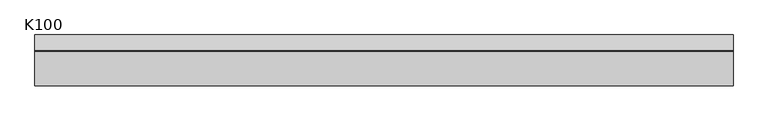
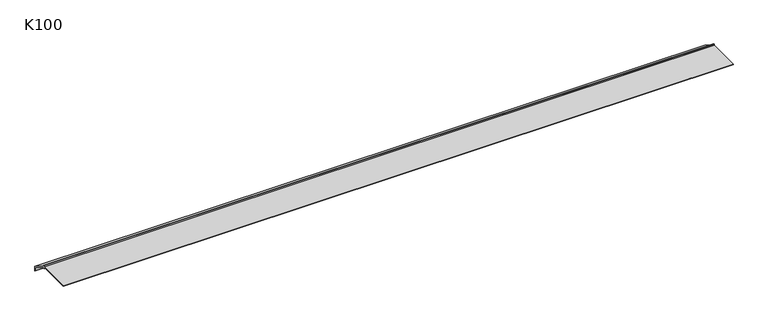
"""IFC4 building model written with IfcOpenShell, lengths in millimetres: proxy geometry, K100 Profil okapowy prosty : K100."""

import ifcopenshell
import ifcopenshell.guid

model = None  # the IFC model being written
_history = None  # IfcOwnerHistory: only IFC2X3 demands one
_inside = {}  # id of a spatial element -> (the spatial element, [elements in it])
_under = {}  # id of a project, library or spatial element -> (it, [spatial elements below it])
_declared = {}  # id of a project -> (the project, [libraries it declares])
_typed = {}  # id of a type object -> (the type object, [elements of that type])
_made_of = {}  # id of a material, layer set ... -> (it, [elements and type objects made of it])


def new_model(schema):
    """Start an empty IFC model of exactly this schema.

    Asked for "IFC4X3", IfcOpenShell would pick the latest addendum, in which some entities
    have other attributes; the version numbers below select the first issue.
    IFC2X3 requires an IfcOwnerHistory on every rooted entity: one is made here for all.
    """
    global model, _history
    if schema == "IFC4X3":
        model = ifcopenshell.file(schema_version=(4, 3, 0, 0))
    else:
        model = ifcopenshell.file(schema=schema)
    _inside.clear()
    _under.clear()
    _declared.clear()
    _typed.clear()
    _made_of.clear()
    _history = None
    if model.schema == "IFC2X3":
        org = make("IfcOrganization", Name="unknown")
        user = make(
            "IfcPersonAndOrganization",
            ThePerson=make("IfcPerson", FamilyName="unknown"),
            TheOrganization=org,
        )
        app = make(
            "IfcApplication",
            ApplicationDeveloper=org,
            Version="unknown",
            ApplicationFullName="unknown",
            ApplicationIdentifier="unknown",
        )
        _history = make(
            "IfcOwnerHistory",
            OwningUser=user,
            OwningApplication=app,
            ChangeAction="ADDED",
            CreationDate=0,
        )
    return model


def make(cls, **values):
    """One entity of the class cls with the attributes given. An attribute that is None is left unset."""
    return model.create_entity(
        cls, **{name: value for name, value in values.items() if value is not None}
    )


def rooted(cls, **values):
    """An entity with a GlobalId (a new one), such as an element, a storey or a relation."""
    return make(cls, GlobalId=ifcopenshell.guid.new(), OwnerHistory=_history, **values)


def si_unit(unit_type, name, prefix=None):
    """IfcSIUnit, for example si_unit("LENGTHUNIT", "METRE", prefix="MILLI")."""
    return make("IfcSIUnit", UnitType=unit_type, Prefix=prefix, Name=name)


def assignment(units):
    """IfcUnitAssignment: the units of a project."""
    return None if units is None else make("IfcUnitAssignment", Units=units)


def point(xyz):
    """IfcCartesianPoint."""
    return None if xyz is None else make("IfcCartesianPoint", Coordinates=xyz)


def direction(xyz):
    """IfcDirection."""
    return None if xyz is None else make("IfcDirection", DirectionRatios=xyz)


def frame(location, z_axis=None, x_axis=None):
    """IfcAxis2Placement3D, a coordinate frame: its origin and axes. An axis left out is left unset."""
    return make(
        "IfcAxis2Placement3D",
        Location=point(location),
        Axis=direction(z_axis),
        RefDirection=direction(x_axis),
    )


def origin():
    """The frame at (0, 0, 0) with its axes left unset."""
    return frame((0.0, 0.0, 0.0))


def place(relative_to, where):
    """IfcLocalPlacement: puts the frame where relative to a parent placement (None: the world)."""
    return make(
        "IfcLocalPlacement", PlacementRelTo=relative_to, RelativePlacement=where
    )


def context(
    kind, dimensions, precision=None, world=None, true_north=None, identifier=None
):
    """IfcGeometricRepresentationContext, for example the 3D "Model" context."""
    return make(
        "IfcGeometricRepresentationContext",
        ContextIdentifier=identifier,
        ContextType=kind,
        CoordinateSpaceDimension=dimensions,
        Precision=precision,
        WorldCoordinateSystem=world,
        TrueNorth=true_north,
    )


def project(units=None, contexts=None):
    """IfcProject with its units and contexts."""
    return rooted(
        "IfcProject",
        Name="project",
        RepresentationContexts=contexts,
        UnitsInContext=assignment(units),
    )


def spatial(cls, under=None, at=None, **own):
    """A site, building, storey or space (cls), placed at a placement, below another one or the project."""
    s = rooted(cls, ObjectPlacement=at, **own)
    if under is not None:
        _under.setdefault(under.id(), (under, []))[1].append(s)
    return s


def polyline(points):
    """IfcPolyline through the points."""
    return make("IfcPolyline", Points=[point(p) for p in points])


def outline(outer, holes=None, kind="AREA"):
    """IfcArbitraryClosedProfileDef: a profile drawn as a closed curve; with holes, ...WithVoids."""
    if holes is None:
        return make("IfcArbitraryClosedProfileDef", ProfileType=kind, OuterCurve=outer)
    return make(
        "IfcArbitraryProfileDefWithVoids",
        ProfileType=kind,
        OuterCurve=outer,
        InnerCurves=holes,
    )


def extrude(swept, where, along, depth):
    """IfcExtrudedAreaSolid: the profile swept, set in the frame where, extruded along a direction by depth."""
    return make(
        "IfcExtrudedAreaSolid",
        SweptArea=swept,
        Position=where,
        ExtrudedDirection=direction(along),
        Depth=depth,
    )


def shape(context_of_items, identifier, shape_type, items):
    """IfcShapeRepresentation: the items that make up one representation, for example the "Body"."""
    return make(
        "IfcShapeRepresentation",
        ContextOfItems=context_of_items,
        RepresentationIdentifier=identifier,
        RepresentationType=shape_type,
        Items=items,
    )


def source(mapping_origin, context_of_items, identifier, shape_type, items):
    """IfcRepresentationMap: a shape defined once, which mapped items show again and again."""
    return make(
        "IfcRepresentationMap",
        MappingOrigin=mapping_origin,
        MappedRepresentation=shape(context_of_items, identifier, shape_type, items),
    )


def transform(
    local_origin,
    x_axis=None,
    y_axis=None,
    z_axis=None,
    scale=None,
    scale2=None,
    scale3=None,
    uniform=True,
):
    """IfcCartesianTransformationOperator3D, or its non-uniform kind. x_axis, y_axis, z_axis: its Axis1, 2, 3."""
    if uniform:
        return make(
            "IfcCartesianTransformationOperator3D",
            Axis1=direction(x_axis),
            Axis2=direction(y_axis),
            LocalOrigin=point(local_origin),
            Scale=scale,
            Axis3=direction(z_axis),
        )
    return make(
        "IfcCartesianTransformationOperator3DnonUniform",
        Axis1=direction(x_axis),
        Axis2=direction(y_axis),
        LocalOrigin=point(local_origin),
        Scale=scale,
        Axis3=direction(z_axis),
        Scale2=scale2,
        Scale3=scale3,
    )


def mapped(mapping_source, mapping_target):
    """IfcMappedItem: shows the shape of a source again, moved by a transform."""
    return make(
        "IfcMappedItem", MappingSource=mapping_source, MappingTarget=mapping_target
    )


def made_of(thing, what):
    """Note that an element or type object is made of a material, layer set ...; save() writes the relation."""
    if what is not None:
        _made_of.setdefault(what.id(), (what, []))[1].append(thing)
    return thing


def element(
    cls,
    number,
    at=None,
    inside=None,
    cuts=None,
    type_object=None,
    material=None,
    context=None,
    identifier="Body",
    shape_type=None,
    held_by="IfcProductDefinitionShape",
    body=None,
    shapes=None,
    **own,
):
    """One element of the class cls, such as IfcWall. Its Tag is "e" and its number.

    at: its placement. inside: the storey or other place that contains it. cuts: it is an
    opening in that element (IfcRelVoidsElement). A single representation is given by context,
    identifier, shape_type and body (its items); several are given by shapes. held_by: the class
    of the entity that holds the representations. save() writes the other relations.
    """
    e = rooted(cls, Tag="e%d" % number, ObjectPlacement=at, **own)
    if body is not None:
        shapes = [shape(context, identifier, shape_type, body)]
    if shapes is not None:
        e.Representation = make(held_by, Representations=shapes)
    if inside is not None:
        _inside.setdefault(inside.id(), (inside, []))[1].append(e)
    if cuts is not None:
        rooted(
            "IfcRelVoidsElement", RelatingBuildingElement=cuts, RelatedOpeningElement=e
        )
    if type_object is not None:
        _typed.setdefault(type_object.id(), (type_object, []))[1].append(e)
    return made_of(e, material)


def aggregate(whole, parts):
    """IfcRelAggregates: a whole, such as a stair, and the parts it consists of."""
    return rooted("IfcRelAggregates", RelatingObject=whole, RelatedObjects=parts)


def save(model, path):
    """Write the relations noted so far, then the file.

    IfcRelAggregates (storeys below a building ...), IfcRelContainedInSpatialStructure (elements
    in a storey), IfcRelDefinesByType, IfcRelAssociatesMaterial and IfcRelDeclares: one each for
    every whole, place, type object, material and project.
    """
    for whole, parts in _under.values():
        aggregate(whole, parts)
    for where, things in _inside.values():
        rooted(
            "IfcRelContainedInSpatialStructure",
            RelatedElements=things,
            RelatingStructure=where,
        )
    for kind, things in _typed.values():
        rooted("IfcRelDefinesByType", RelatedObjects=things, RelatingType=kind)
    for what, things in _made_of.values():
        rooted("IfcRelAssociatesMaterial", RelatedObjects=things, RelatingMaterial=what)
    for by, libraries in _declared.values():
        rooted("IfcRelDeclares", RelatingContext=by, RelatedDefinitions=libraries)
    model.write(path)


def k100_058bcfcb(model_context):
    return source(origin(), model_context, "Body", "SweptSolid", [
        extrude(outline(polyline([(0.0, -3.0), (30.0, -21.1), (30.0, -30.42), (28.75, -29.17), (28.75, -21.8057194), (0.0, -4.4598861), (0.0, -7.25), (-1.25, -7.25), (-1.25, -4.25), (-66.25, -4.25), (-66.25, -3.0), (-1.25, -3.0), (-1.25, 0.0), (0.0, 0.0), (0.0, -3.0)])), frame((0.0, 0.0, 0.0), z_axis=(1.0, 0.0, 0.0), x_axis=(0.0, 1.0, 0.0)), (0.0, 0.0, 1.0), 1320.0),
    ])


if __name__ == "__main__":
    model = new_model("IFC4")
    model_context = context("Model", 3, world=origin())
    ifc_project = project(units=[si_unit("LENGTHUNIT", "METRE", prefix="MILLI")], contexts=[model_context])
    site = spatial("IfcSite", under=ifc_project)
    building = spatial("IfcBuilding", under=site)
    placement = place(None, origin())
    k100_shape = k100_058bcfcb(model_context)
    element("IfcBuildingElementProxy", 1, Name="K100 Profil okapowy prosty : K100", ObjectType="K100 Profil okapowy prosty : K100", at=placement, inside=building, context=model_context, shape_type="MappedRepresentation", body=[
        mapped(k100_shape, transform((0.0, 0.0, 0.0), x_axis=(1.0, 0.0, 0.0), y_axis=(0.0, 1.0, 0.0), z_axis=(0.0, 0.0, 1.0))),
    ])
    save(model, "model.ifc")
